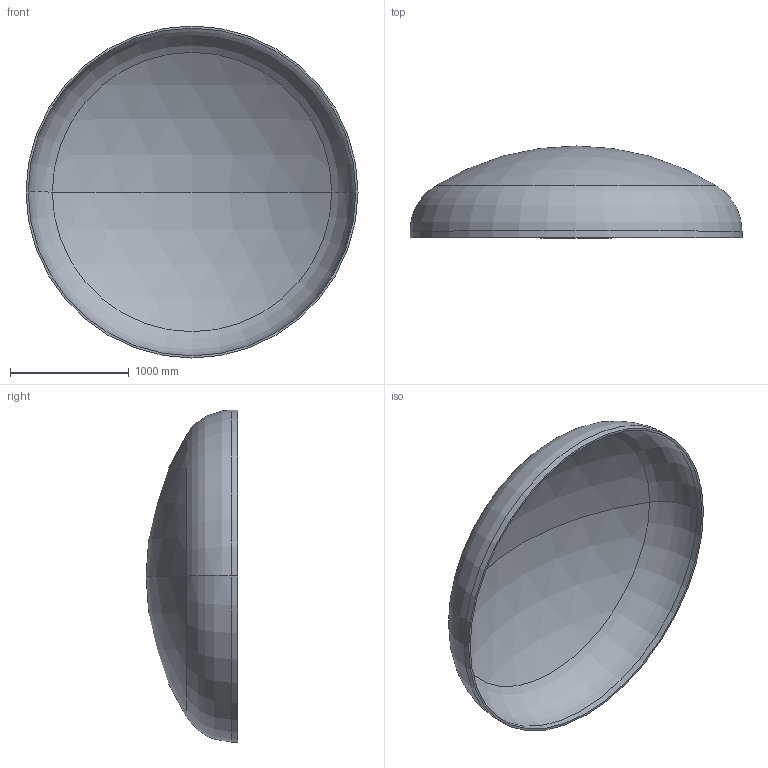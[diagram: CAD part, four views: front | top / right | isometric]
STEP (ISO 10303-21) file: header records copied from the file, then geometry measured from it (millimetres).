
FILE_DESCRIPTION (( 'STEP AP203' ), '1' );
FILE_NAME ('DIN 28013 Korbbogenform_-_Boden DIN 28013 - 2800 x 55 - I - s=18.step', '2016-07-01T16:45:41', ( '' ), ( '' ), 'SwSTEP 2.0', 'SolidWorks 2013', '' );
FILE_SCHEMA (( 'CONFIG_CONTROL_DESIGN' ));
Length unit declared in the file: millimetre
Products named in the file (1): DIN 28013 Korbbogenform_-_Boden DIN 28013 - 2800 x 55 - I - s=18
Bounding box: 2800 x 773.59 x 2800 mm (x, y, z)
Volume: 160778797.4 mm3; surface area: 18022300.9 mm2
Topology: 1 solids, 1 shells, 13 faces, 24 edges, 14 vertices
Faces by surface type: torus 4, cylinder 4, sphere 4, plane 1
Entity records: 407 total; most frequent: DIRECTION 72, CARTESIAN_POINT 52, ORIENTED_EDGE 48, AXIS2_PLACEMENT_3D 34, EDGE_CURVE 24, CIRCLE 20, VERTEX_POINT 14, EDGE_LOOP 14
